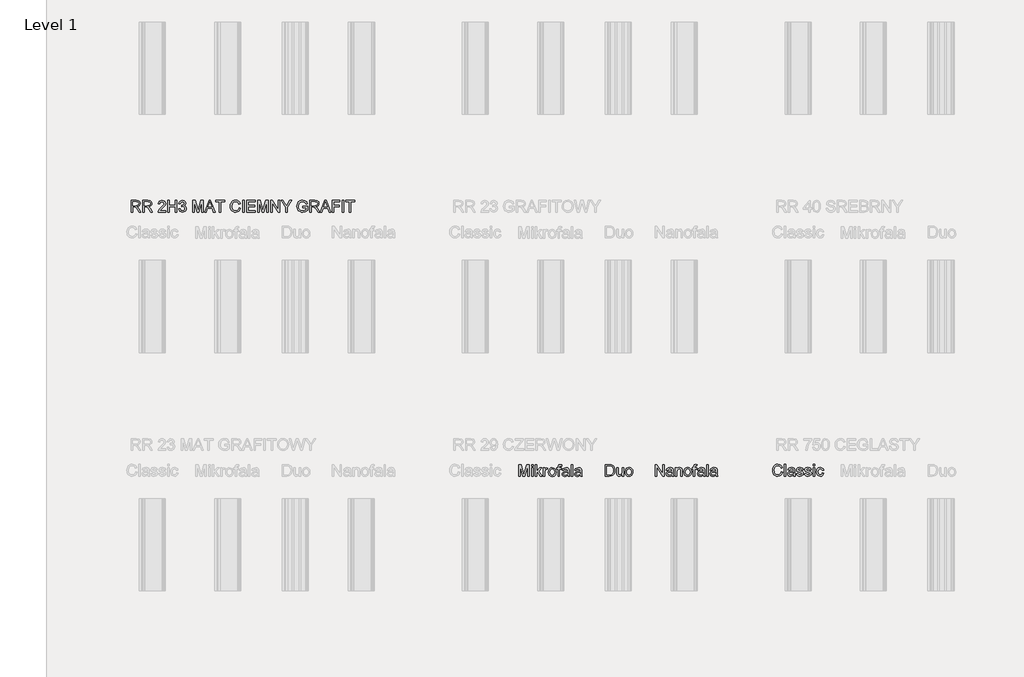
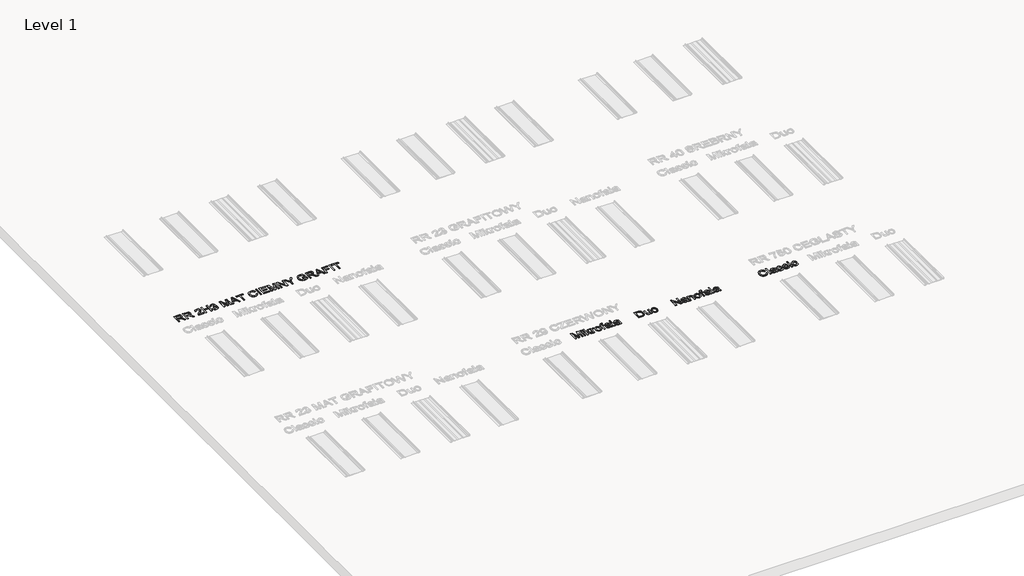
# One storey, part 13 of 24: 5 proxies.
"""IFC4 building model written with IfcOpenShell, lengths in millimetres."""

from ifc_helpers import new_model, si_unit, frame, origin, place, context, project, spatial, polyline, outline, extrude, element, save

model = new_model("IFC4")

# Units and contexts
model_context = context("Model", 3, world=origin())
ifc_project = project(units=[si_unit("LENGTHUNIT", "METRE", prefix="MILLI")], contexts=[model_context])

# Site, building, storey
site = spatial("IfcSite", under=ifc_project)
building = spatial("IfcBuilding", under=site)
storey = spatial("IfcBuildingStorey", under=building, Name="Level 1", Elevation=0.0)

# Proxies
placement = place(None, origin())
element("IfcBuildingElementProxy", 1, Name="150", ObjectType="150", at=placement, inside=storey, context=model_context, shape_type="SweptSolid", body=[
    extrude(outline(polyline([(-3695.6654959, -5075.281387), (-3695.6654959, -4924.5969218), (-3663.3654568, -4924.5969218), (-3632.4633692, -5030.8044538), (-3626.2093753, -5052.9877381), (-3619.4771347, -5028.9650438), (-3589.1636583, -4924.5969218), (-3556.7532546, -4924.5969218), (-3556.7532546, -5075.281387), (-3575.5888127, -5075.281387), (-3575.5888127, -4943.4324799), (-3613.44387, -5075.281387), (-3638.9380923, -5075.281387), (-3676.8299378, -4943.4324799), (-3676.8299378, -5075.281387), (-3695.6654959, -5075.281387)])), frame((0.0, 0.0, 600.0), z_axis=(0.0, 0.0, 1.0), x_axis=(1.0, 0.0, 0.0)), (0.0, 0.0, 1.0), 10.0),
    extrude(outline(polyline([(-3526.1454726, -4943.4324799), (-3526.1454726, -4924.5969218), (-3507.3099144, -4924.5969218), (-3507.3099144, -4943.4324799), (-3526.1454726, -4943.4324799)])), frame((0.0, 0.0, 600.0), z_axis=(0.0, 0.0, 1.0), x_axis=(1.0, 0.0, 0.0)), (0.0, 0.0, 1.0), 10.0),
    extrude(outline(polyline([(-3526.1454726, -5075.281387), (-3526.1454726, -4964.6224829), (-3507.3099144, -4964.6224829), (-3507.3099144, -5075.281387), (-3526.1454726, -5075.281387)])), frame((0.0, 0.0, 600.0), z_axis=(0.0, 0.0, 1.0), x_axis=(1.0, 0.0, 0.0)), (0.0, 0.0, 1.0), 10.0),
    extrude(outline(polyline([(-3479.0565772, -5075.281387), (-3479.0565772, -4924.5969218), (-3460.221019, -4924.5969218), (-3460.221019, -5005.5677489), (-3417.988166, -4964.6224829), (-3391.9421207, -4964.6224829), (-3434.7267968, -5006.0827837), (-3389.587676, -5075.281387), (-3411.5870193, -5075.281387), (-3448.228066, -5019.1793827), (-3460.221019, -5030.841242), (-3460.221019, -5075.281387), (-3479.0565772, -5075.281387)])), frame((0.0, 0.0, 600.0), z_axis=(0.0, 0.0, 1.0), x_axis=(1.0, 0.0, 0.0)), (0.0, 0.0, 1.0), 10.0),
    extrude(outline(polyline([(-3373.1065626, -5075.281387), (-3373.1065626, -4964.6224829), (-3356.6254492, -4964.6224829), (-3356.6254492, -4980.9932316), (-3344.9268017, -4965.9100698), (-3333.1545779, -4962.2680381), (-3314.2454433, -4968.0805736), (-3320.5362255, -4984.9663572), (-3333.7799773, -4981.1035962), (-3344.4301611, -4984.8192044), (-3351.2175839, -4995.1199003), (-3354.2710044, -5017.1192436), (-3354.2710044, -5075.281387), (-3373.1065626, -5075.281387)])), frame((0.0, 0.0, 600.0), z_axis=(0.0, 0.0, 1.0), x_axis=(1.0, 0.0, 0.0)), (0.0, 0.0, 1.0), 10.0),
    extrude(outline(polyline([(-3307.182109, -5019.9519349), (-3303.1078159, -4993.2712932), (-3290.8849367, -4974.5185085), (-3275.7833808, -4965.3306557), (-3257.7019807, -4962.2680381), (-3237.9145279, -4965.9974418), (-3222.1093977, -4977.185653), (-3211.748921, -4994.9497548), (-3208.2954287, -5018.4068306), (-3209.822139, -5037.4355268), (-3214.4022699, -5051.9208803), (-3221.902464, -5062.7688007), (-3232.1893643, -5070.8851972), (-3244.4076451, -5075.9481731), (-3257.7019807, -5077.6358318), (-3277.7285568, -5073.9202236), (-3293.5152929, -5062.7733992), (-3303.765405, -5044.6368168), (-3307.182109, -5019.9519349)]), holes=[polyline([(-3288.3465509, -5019.9151467), (-3286.1668501, -5036.9618787), (-3279.6277476, -5049.1065831), (-3269.7869042, -5056.376851), (-3257.7019807, -5058.8002736), (-3245.6722394, -5056.3630554), (-3235.8497902, -5049.0514008), (-3229.3106877, -5036.745748), (-3227.1309869, -5019.3265355), (-3229.3244833, -5002.7764443), (-3235.9049725, -4990.7972868), (-3245.7412173, -4983.5270189), (-3257.7019807, -4981.1035962), (-3269.7869042, -4983.5178218), (-3279.6277476, -4990.7604986), (-3286.1668501, -5002.8776118), (-3288.3465509, -5019.9151467)])]), frame((0.0, 0.0, 600.0), z_axis=(0.0, 0.0, 1.0), x_axis=(1.0, 0.0, 0.0)), (0.0, 0.0, 1.0), 10.0),
    extrude(outline(polyline([(-3182.3965363, -5075.281387), (-3182.3965363, -4983.458041), (-3198.8776497, -4983.458041), (-3198.8776497, -4964.6224829), (-3182.3965363, -4964.6224829), (-3182.3965363, -4953.4756584), (-3180.4099735, -4937.7670972), (-3170.7714652, -4926.5466964), (-3151.7887543, -4922.242477), (-3134.6086651, -4924.3026162), (-3137.3677801, -4941.960952), (-3148.2202989, -4941.0780352), (-3160.0844933, -4944.2050321), (-3163.5609781, -4955.8668914), (-3163.5609781, -4964.6224829), (-3142.3709752, -4964.6224829), (-3142.3709752, -4983.458041), (-3163.5609781, -4983.458041), (-3163.5609781, -5075.281387), (-3182.3965363, -5075.281387)])), frame((0.0, 0.0, 600.0), z_axis=(0.0, 0.0, 1.0), x_axis=(1.0, 0.0, 0.0)), (0.0, 0.0, 1.0), 10.0),
    extrude(outline(polyline([(-3055.2565187, -5061.1547184), (-3073.5218598, -5073.9202236), (-3093.7001872, -5077.6358318), (-3109.4409381, -5075.4009487), (-3121.0522136, -5068.6962993), (-3128.2121169, -5058.5151651), (-3130.5987514, -5045.8508274), (-3126.9935078, -5030.9516066), (-3117.5205464, -5020.1358759), (-3104.3319769, -5013.9554584), (-3088.0348045, -5011.1227671), (-3055.3668833, -5004.6480439), (-3055.2565187, -5000.4541892), (-3056.5533028, -4992.0480856), (-3060.4436549, -4986.5482498), (-3069.1440641, -4982.4647596), (-3081.2657758, -4981.1035962), (-3100.3220632, -4984.7272339), (-3109.4087484, -4997.5847096), (-3128.2443066, -4995.2302649), (-3120.0957204, -4976.8361651), (-3103.6881834, -4966.0572226), (-3078.8377546, -4962.2680381), (-3056.0106768, -4965.6157643), (-3043.1164129, -4974.0218678), (-3037.3406656, -4986.8057672), (-3036.4209606, -5003.2868806), (-3036.4209606, -5026.7209636), (-3035.4644674, -5059.4440671), (-3031.7120711, -5075.281387), (-3050.5476292, -5075.281387), (-3055.2565187, -5061.1547184)]), holes=[polyline([(-3055.2565187, -5023.4836021), (-3085.6435715, -5029.2593494), (-3101.8487734, -5032.31277), (-3109.1880192, -5037.2791769), (-3111.7631932, -5044.5264522), (-3106.1529928, -5054.7167835), (-3089.6902735, -5058.8002736), (-3070.6339861, -5054.2937192), (-3058.3467275, -5043.386018), (-3055.3668833, -5028.817891), (-3055.2565187, -5023.4836021)])]), frame((0.0, 0.0, 600.0), z_axis=(0.0, 0.0, 1.0), x_axis=(1.0, 0.0, 0.0)), (0.0, 0.0, 1.0), 10.0),
    extrude(outline(polyline([(-3010.5220681, -5075.281387), (-3010.5220681, -4924.5969218), (-2991.68651, -4924.5969218), (-2991.68651, -5075.281387), (-3010.5220681, -5075.281387)])), frame((0.0, 0.0, 600.0), z_axis=(0.0, 0.0, 1.0), x_axis=(1.0, 0.0, 0.0)), (0.0, 0.0, 1.0), 10.0),
    extrude(outline(polyline([(-2892.7998297, -5061.1547184), (-2911.0651707, -5073.9202236), (-2931.2434982, -5077.6358318), (-2946.984249, -5075.4009487), (-2958.5955245, -5068.6962993), (-2965.7554278, -5058.5151651), (-2968.1420623, -5045.8508274), (-2964.5368187, -5030.9516066), (-2955.0638574, -5020.1358759), (-2941.8752878, -5013.9554584), (-2925.5781154, -5011.1227671), (-2892.9101943, -5004.6480439), (-2892.7998297, -5000.4541892), (-2894.0966137, -4992.0480856), (-2897.9869658, -4986.5482498), (-2906.687375, -4982.4647596), (-2918.8090867, -4981.1035962), (-2937.8653741, -4984.7272339), (-2946.9520594, -4997.5847096), (-2965.7876175, -4995.2302649), (-2957.6390313, -4976.8361651), (-2941.2314943, -4966.0572226), (-2916.3810656, -4962.2680381), (-2893.5539878, -4965.6157643), (-2880.6597238, -4974.0218678), (-2874.8839765, -4986.8057672), (-2873.9642715, -5003.2868806), (-2873.9642715, -5026.7209636), (-2873.0077783, -5059.4440671), (-2869.255382, -5075.281387), (-2888.0909401, -5075.281387), (-2892.7998297, -5061.1547184)]), holes=[polyline([(-2892.7998297, -5023.4836021), (-2923.1868825, -5029.2593494), (-2939.3920844, -5032.31277), (-2946.7313302, -5037.2791769), (-2949.3065041, -5044.5264522), (-2943.6963037, -5054.7167835), (-2927.2335844, -5058.8002736), (-2908.1772971, -5054.2937192), (-2895.8900384, -5043.386018), (-2892.9101943, -5028.817891), (-2892.7998297, -5023.4836021)])]), frame((0.0, 0.0, 600.0), z_axis=(0.0, 0.0, 1.0), x_axis=(1.0, 0.0, 0.0)), (0.0, 0.0, 1.0), 10.0),
])
element("IfcBuildingElementProxy", 2, Name="150", ObjectType="150", at=placement, inside=storey, context=model_context, shape_type="SweptSolid", body=[
    extrude(outline(polyline([(-2567.5807075, -5072.1592468), (-2567.5807075, -4921.4747816), (-2515.5989816, -4921.4747816), (-2488.7068077, -4923.6452853), (-2466.5603116, -4934.4242278), (-2456.1400541, -4945.902146), (-2448.7180349, -4960.1759675), (-2444.2758598, -4976.9697805), (-2442.7951347, -4996.0076738), (-2446.8050485, -5026.4131207), (-2457.1057443, -5048.3572817), (-2470.864531, -5062.0240978), (-2488.8723546, -5069.5840728), (-2513.097384, -5072.1592468), (-2567.5807075, -5072.1592468)]), holes=[polyline([(-2548.7451493, -5053.3236886), (-2515.4150406, -5053.3236886), (-2491.1716171, -5050.6013619), (-2477.1921013, -5042.9126282), (-2465.7325771, -5024.2058287), (-2461.6306929, -4995.7133682), (-2463.6402483, -4975.1855529), (-2469.6689145, -4960.0288147), (-2478.5762573, -4949.6177542), (-2489.2218425, -4943.3269721), (-2515.9300754, -4940.3103397), (-2548.7451493, -4940.3103397), (-2548.7451493, -5053.3236886)])]), frame((0.0, 0.0, 600.0), z_axis=(0.0, 0.0, 1.0), x_axis=(1.0, 0.0, 0.0)), (0.0, 0.0, 1.0), 10.0),
    extrude(outline(polyline([(-2348.617344, -5072.1592468), (-2348.617344, -5053.1397476), (-2363.369412, -5069.1702056), (-2382.6096403, -5074.5136916), (-2400.3231584, -5070.7612952), (-2412.5368406, -5061.3435161), (-2418.1470411, -5047.4743649), (-2419.250687, -5029.9631819), (-2419.250687, -4961.5003426), (-2400.4151289, -4961.5003426), (-2400.4151289, -5021.0972259), (-2399.2746947, -5040.300666), (-2391.8250843, -5051.5762492), (-2377.7903862, -5055.6781334), (-2362.0634309, -5051.4842787), (-2351.6707645, -5040.0615427), (-2348.617344, -5019.0738749), (-2348.617344, -4961.5003426), (-2329.7817858, -4961.5003426), (-2329.7817858, -5072.1592468), (-2348.617344, -5072.1592468)])), frame((0.0, 0.0, 600.0), z_axis=(0.0, 0.0, 1.0), x_axis=(1.0, 0.0, 0.0)), (0.0, 0.0, 1.0), 10.0),
    extrude(outline(polyline([(-2308.5917829, -5016.8297947), (-2304.5174898, -4990.149153), (-2292.2946105, -4971.3963683), (-2277.1930546, -4962.2085155), (-2259.1116545, -4959.1458979), (-2239.3242017, -4962.8753016), (-2223.5190715, -4974.0635128), (-2213.1585948, -4991.8276146), (-2209.7051026, -5015.2846903), (-2211.2318129, -5034.3133865), (-2215.8119437, -5048.7987401), (-2223.3121379, -5059.6466604), (-2233.5990382, -5067.7630569), (-2245.8173189, -5072.8260329), (-2259.1116545, -5074.5136916), (-2279.1382307, -5070.7980834), (-2294.9249668, -5059.651259), (-2305.1750789, -5041.5146766), (-2308.5917829, -5016.8297947)]), holes=[polyline([(-2289.7562247, -5016.7930065), (-2287.5765239, -5033.8397385), (-2281.0374215, -5045.9844428), (-2271.1965781, -5053.2547108), (-2259.1116545, -5055.6781334), (-2247.0819133, -5053.2409152), (-2237.259464, -5045.9292605), (-2230.7203616, -5033.6236078), (-2228.5406607, -5016.2043953), (-2230.7341571, -4999.6543041), (-2237.3146463, -4987.6751466), (-2247.1508912, -4980.4048787), (-2259.1116545, -4977.981456), (-2271.1965781, -4980.3956816), (-2281.0374215, -4987.6383584), (-2287.5765239, -4999.7554716), (-2289.7562247, -5016.7930065)])]), frame((0.0, 0.0, 600.0), z_axis=(0.0, 0.0, 1.0), x_axis=(1.0, 0.0, 0.0)), (0.0, 0.0, 1.0), 10.0),
])
element("IfcBuildingElementProxy", 3, Name="150", ObjectType="150", at=placement, inside=storey, context=model_context, shape_type="SweptSolid", body=[
    extrude(outline(polyline([(-279.0085992, -5017.1818641), (-260.1730411, -5022.0379064), (-268.8642532, -5043.986666), (-282.5034782, -5060.0217224), (-300.4193314, -5069.8303761), (-321.9404281, -5073.0999274), (-343.7880201, -5070.6259209), (-361.1382547, -5063.2039017), (-374.4371888, -5051.091387), (-384.1308794, -5034.5458943), (-390.049181, -5015.0941338), (-392.0219482, -4994.2628158), (-389.7916636, -4972.2910636), (-383.1008098, -4953.3175497), (-372.2988747, -4937.9446809), (-357.7353462, -4926.7748638), (-340.4632865, -4919.9736454), (-321.5357579, -4917.7065726), (-300.8837824, -4920.6404315), (-283.8094593, -4929.4420082), (-270.8462175, -4943.5686769), (-262.5274859, -4962.4778114), (-281.363044, -4966.9659718), (-287.8929494, -4953.2301778), (-296.8140878, -4943.8078002), (-308.2368238, -4938.3585481), (-322.2715219, -4936.5421308), (-338.4491326, -4938.5562847), (-351.7388697, -4944.5987464), (-361.8234349, -4954.0349196), (-368.38553, -4966.2302078), (-373.18639, -4994.2260276), (-371.7654458, -5011.626846), (-367.5026132, -5026.6732196), (-360.2369438, -5038.7903328), (-349.8074892, -5047.40337), (-337.3040999, -5052.5491194), (-323.8166263, -5054.2643692), (-308.0942695, -5051.9283185), (-294.9930719, -5044.9201665), (-285.1016448, -5033.3134896), (-279.0085992, -5017.1818641)])), frame((0.0, 0.0, 600.0), z_axis=(0.0, 0.0, 1.0), x_axis=(1.0, 0.0, 0.0)), (0.0, 0.0, 1.0), 10.0),
    extrude(outline(polyline([(-236.6285934, -5070.7454826), (-236.6285934, -4920.0610174), (-217.7930352, -4920.0610174), (-217.7930352, -5070.7454826), (-236.6285934, -5070.7454826)])), frame((0.0, 0.0, 600.0), z_axis=(0.0, 0.0, 1.0), x_axis=(1.0, 0.0, 0.0)), (0.0, 0.0, 1.0), 10.0),
    extrude(outline(polyline([(-118.9063549, -5056.618814), (-137.171696, -5069.3843192), (-157.3500234, -5073.0999274), (-173.0907743, -5070.8650442), (-184.7020498, -5064.1603949), (-191.8619531, -5053.9792607), (-194.2485875, -5041.314923), (-190.643344, -5026.4157022), (-181.1703826, -5015.5999715), (-167.9818131, -5009.419554), (-151.6846407, -5006.5868626), (-119.0167195, -5000.1121395), (-118.9063549, -4995.9182848), (-120.203139, -4987.5121812), (-124.0934911, -4982.0123454), (-132.7939003, -4977.9288552), (-144.915612, -4976.5676918), (-163.9718993, -4980.1913295), (-173.0585846, -4993.0488052), (-191.8941428, -4990.6943604), (-183.7455566, -4972.3002607), (-167.3380196, -4961.5213182), (-142.4875908, -4957.7321337), (-119.660513, -4961.0798598), (-106.7662491, -4969.4859634), (-100.9905018, -4982.2698628), (-100.0707968, -4998.7509761), (-100.0707968, -5022.1850592), (-99.1143036, -5054.9081627), (-95.3619072, -5070.7454826), (-114.1974654, -5070.7454826), (-118.9063549, -5056.618814)]), holes=[polyline([(-118.9063549, -5018.9476977), (-149.2934077, -5024.723445), (-165.4986096, -5027.7768656), (-172.8378554, -5032.7432725), (-175.4130294, -5039.9905478), (-169.802829, -5050.1808791), (-153.3401097, -5054.2643692), (-134.2838223, -5049.7578148), (-121.9965637, -5038.8501136), (-119.0167195, -5024.2819866), (-118.9063549, -5018.9476977)])]), frame((0.0, 0.0, 600.0), z_axis=(0.0, 0.0, 1.0), x_axis=(1.0, 0.0, 0.0)), (0.0, 0.0, 1.0), 10.0),
    extrude(outline(polyline([(-81.2352386, -5037.7832558), (-62.3996805, -5035.4288111), (-59.4290334, -5043.4854268), (-53.6808772, -5049.4083269), (-33.7048849, -5054.2643692), (-14.5014447, -5049.8129971), (-8.2474508, -5039.3651484), (-9.8201463, -5034.5642884), (-14.5382329, -5030.9038625), (-33.9256141, -5025.5327854), (-62.2893159, -5016.3173414), (-74.668545, -5005.5567931), (-78.8807939, -4990.3632666), (-75.4962795, -4976.3285685), (-66.2624414, -4965.6048084), (-54.2878825, -4960.0313961), (-38.0826806, -4957.7321337), (-15.1636323, -4961.4293477), (-0.5955053, -4971.435738), (5.8792178, -4988.3399157), (-12.9563403, -4990.6943604), (-20.0380687, -4980.3016941), (-36.6111526, -4976.5676918), (-54.6373704, -4980.1361472), (-60.0452357, -4988.4502803), (-57.8011555, -4993.931722), (-50.7746094, -4998.0887885), (-34.5510134, -5002.0987023), (-6.9046815, -5010.9646584), (5.9344001, -5021.0078368), (10.5881074, -5037.3785856), (5.1250597, -5055.4048034), (-10.6386838, -5068.4830083), (-33.9624023, -5073.0999274), (-52.9543103, -5070.8742413), (-66.8142644, -5064.1971831), (-76.0664966, -5053.1423291), (-81.2352386, -5037.7832558)])), frame((0.0, 0.0, 600.0), z_axis=(0.0, 0.0, 1.0), x_axis=(1.0, 0.0, 0.0)), (0.0, 0.0, 1.0), 10.0),
    extrude(outline(polyline([(24.714776, -5037.7832558), (43.5503341, -5035.4288111), (46.5209812, -5043.4854268), (52.2691374, -5049.4083269), (72.2451298, -5054.2643692), (91.4485699, -5049.8129971), (97.7025638, -5039.3651484), (96.1298683, -5034.5642884), (91.4117817, -5030.9038625), (72.0244006, -5025.5327854), (43.6606987, -5016.3173414), (31.2814696, -5005.5567931), (27.0692207, -4990.3632666), (30.4537351, -4976.3285685), (39.6875732, -4965.6048084), (51.6621321, -4960.0313961), (67.867334, -4957.7321337), (90.7863823, -4961.4293477), (105.3545093, -4971.435738), (111.8292324, -4988.3399157), (92.9936743, -4990.6943604), (85.9119459, -4980.3016941), (69.338862, -4976.5676918), (51.3126442, -4980.1361472), (45.9047789, -4988.4502803), (48.1488591, -4993.931722), (55.1754052, -4998.0887885), (71.3990012, -5002.0987023), (99.0453331, -5010.9646584), (111.8844147, -5021.0078368), (116.538122, -5037.3785856), (111.0750743, -5055.4048034), (95.3113309, -5068.4830083), (71.9876124, -5073.0999274), (52.9957044, -5070.8742413), (39.1357502, -5064.1971831), (29.883518, -5053.1423291), (24.714776, -5037.7832558)])), frame((0.0, 0.0, 600.0), z_axis=(0.0, 0.0, 1.0), x_axis=(1.0, 0.0, 0.0)), (0.0, 0.0, 1.0), 10.0),
    extrude(outline(polyline([(137.7281249, -4938.8965755), (137.7281249, -4920.0610174), (156.5636831, -4920.0610174), (156.5636831, -4938.8965755), (137.7281249, -4938.8965755)])), frame((0.0, 0.0, 600.0), z_axis=(0.0, 0.0, 1.0), x_axis=(1.0, 0.0, 0.0)), (0.0, 0.0, 1.0), 10.0),
    extrude(outline(polyline([(137.7281249, -5070.7454826), (137.7281249, -4960.0865784), (156.5636831, -4960.0865784), (156.5636831, -5070.7454826), (137.7281249, -5070.7454826)])), frame((0.0, 0.0, 600.0), z_axis=(0.0, 0.0, 1.0), x_axis=(1.0, 0.0, 0.0)), (0.0, 0.0, 1.0), 10.0),
    extrude(outline(polyline([(255.4503634, -5030.7199215), (274.2859215, -5033.0743663), (269.034406, -5049.8267926), (259.1659715, -5062.4865318), (245.60952, -5070.4465785), (229.2939535, -5073.0999274), (209.2581803, -5069.3981148), (193.5910059, -5058.2926771), (183.4788495, -5040.2710578), (180.1081307, -5015.8207007), (181.547469, -4999.0590773), (185.865484, -4984.532337), (193.1311534, -4972.8014999), (203.4134551, -4964.427586), (215.7145094, -4959.4059968), (229.0364361, -4957.7321337), (244.9519309, -4960.0313961), (257.6760494, -4966.9291836), (266.8041214, -4978.0576139), (271.9314767, -4993.0488052), (253.0959186, -4995.40325), (244.3587212, -4981.2949755), (229.1835889, -4976.5676918), (217.0112934, -4978.8945454), (207.3497925, -4985.8751063), (201.0452148, -4997.8864535), (198.9436889, -5015.3056659), (200.9992295, -5032.9594032), (207.1658515, -5045.012137), (216.6526084, -5051.9513112), (228.6685541, -5054.2643692), (238.4220255, -5052.8204324), (246.4188604, -5048.4886219), (252.2359944, -5041.1585731), (255.4503634, -5030.7199215)])), frame((0.0, 0.0, 600.0), z_axis=(0.0, 0.0, 1.0), x_axis=(1.0, 0.0, 0.0)), (0.0, 0.0, 1.0), 10.0),
])
element("IfcBuildingElementProxy", 4, Name="150", ObjectType="150", at=placement, inside=storey, context=model_context, shape_type="SweptSolid", body=[
    extrude(outline(polyline([(-1919.1806572, -5072.1592468), (-1919.1806572, -4921.4747816), (-1899.0207239, -4921.4747816), (-1820.2939769, -5040.852489), (-1820.2939769, -4921.4747816), (-1801.4584188, -4921.4747816), (-1801.4584188, -5072.1592468), (-1821.6183521, -5072.1592468), (-1900.3450991, -4952.7447512), (-1900.3450991, -5072.1592468), (-1919.1806572, -5072.1592468)])), frame((0.0, 0.0, 600.0), z_axis=(0.0, 0.0, 1.0), x_axis=(1.0, 0.0, 0.0)), (0.0, 0.0, 1.0), 10.0),
    extrude(outline(polyline([(-1700.2172937, -5058.0325782), (-1718.4826347, -5070.7980834), (-1738.6609622, -5074.5136916), (-1754.401713, -5072.2788084), (-1766.0129885, -5065.5741591), (-1773.1728919, -5055.3930249), (-1775.5595263, -5042.7286872), (-1771.9542827, -5027.8294664), (-1762.4813214, -5017.0137357), (-1749.2927518, -5010.8333182), (-1732.9955795, -5008.0006268), (-1700.3276583, -5001.5259037), (-1700.2172937, -4997.332049), (-1701.5140777, -4988.9259454), (-1705.4044298, -4983.4261096), (-1714.104839, -4979.3426194), (-1726.2265507, -4977.981456), (-1745.2828381, -4981.6050937), (-1754.3695234, -4994.4625694), (-1773.2050815, -4992.1081246), (-1765.0564953, -4973.7140249), (-1748.6489583, -4962.9350824), (-1723.7985296, -4959.1458979), (-1700.9714518, -4962.493624), (-1688.0771878, -4970.8997276), (-1682.3014405, -4983.683627), (-1681.3817355, -5000.1647403), (-1681.3817355, -5023.5988234), (-1680.4252423, -5056.3219269), (-1676.672846, -5072.1592468), (-1695.5084041, -5072.1592468), (-1700.2172937, -5058.0325782)]), holes=[polyline([(-1700.2172937, -5020.3614619), (-1730.6043465, -5026.1372092), (-1746.8095484, -5029.1906298), (-1754.1487942, -5034.1570367), (-1756.7239681, -5041.404312), (-1751.1137677, -5051.5946433), (-1734.6510484, -5055.6781334), (-1715.5947611, -5051.171579), (-1703.3075024, -5040.2638778), (-1700.3276583, -5025.6957508), (-1700.2172937, -5020.3614619)])]), frame((0.0, 0.0, 600.0), z_axis=(0.0, 0.0, 1.0), x_axis=(1.0, 0.0, 0.0)), (0.0, 0.0, 1.0), 10.0),
    extrude(outline(polyline([(-1655.4828431, -5072.1592468), (-1655.4828431, -4961.5003426), (-1636.6472849, -4961.5003426), (-1636.6472849, -4976.9513864), (-1622.2447048, -4963.59727), (-1602.5814122, -4959.1458979), (-1584.7943177, -4962.7327473), (-1572.6542119, -4972.1505264), (-1567.0072232, -4986.0012835), (-1566.0139418, -5004.2114423), (-1566.0139418, -5072.1592468), (-1584.8495, -5072.1592468), (-1584.8495, -5006.749828), (-1587.0200038, -4990.0847737), (-1594.6903434, -4981.2739999), (-1607.6213955, -4977.981456), (-1618.6532568, -4979.8300631), (-1628.0572403, -4985.3758841), (-1634.4997738, -4996.0904472), (-1636.6472849, -5013.4452804), (-1636.6472849, -5072.1592468), (-1655.4828431, -5072.1592468)])), frame((0.0, 0.0, 600.0), z_axis=(0.0, 0.0, 1.0), x_axis=(1.0, 0.0, 0.0)), (0.0, 0.0, 1.0), 10.0),
    extrude(outline(polyline([(-1544.8239389, -5016.8297947), (-1540.7496458, -4990.149153), (-1528.5267665, -4971.3963683), (-1513.4252106, -4962.2085155), (-1495.3438106, -4959.1458979), (-1475.5563578, -4962.8753016), (-1459.7512275, -4974.0635128), (-1449.3907508, -4991.8276146), (-1445.9372586, -5015.2846903), (-1447.4639689, -5034.3133865), (-1452.0440997, -5048.7987401), (-1459.5442939, -5059.6466604), (-1469.8311942, -5067.7630569), (-1482.049475, -5072.8260329), (-1495.3438106, -5074.5136916), (-1515.3703867, -5070.7980834), (-1531.1571228, -5059.651259), (-1541.4072349, -5041.5146766), (-1544.8239389, -5016.8297947)]), holes=[polyline([(-1525.9883808, -5016.7930065), (-1523.8086799, -5033.8397385), (-1517.2695775, -5045.9844428), (-1507.4287341, -5053.2547108), (-1495.3438106, -5055.6781334), (-1483.3140693, -5053.2409152), (-1473.4916201, -5045.9292605), (-1466.9525176, -5033.6236078), (-1464.7728168, -5016.2043953), (-1466.9663132, -4999.6543041), (-1473.5468024, -4987.6751466), (-1483.3830472, -4980.4048787), (-1495.3438106, -4977.981456), (-1507.4287341, -4980.3956816), (-1517.2695775, -4987.6383584), (-1523.8086799, -4999.7554716), (-1525.9883808, -5016.7930065)])]), frame((0.0, 0.0, 600.0), z_axis=(0.0, 0.0, 1.0), x_axis=(1.0, 0.0, 0.0)), (0.0, 0.0, 1.0), 10.0),
    extrude(outline(polyline([(-1420.0383662, -5072.1592468), (-1420.0383662, -4980.3359008), (-1436.5194795, -4980.3359008), (-1436.5194795, -4961.5003426), (-1420.0383662, -4961.5003426), (-1420.0383662, -4950.3535182), (-1418.0518034, -4934.644957), (-1408.4132951, -4923.4245561), (-1389.4305842, -4919.1203368), (-1372.250495, -4921.180476), (-1375.0096099, -4938.8388117), (-1385.8621288, -4937.955895), (-1397.7263231, -4941.0828919), (-1401.202808, -4952.7447512), (-1401.202808, -4961.5003426), (-1380.0128051, -4961.5003426), (-1380.0128051, -4980.3359008), (-1401.202808, -4980.3359008), (-1401.202808, -5072.1592468), (-1420.0383662, -5072.1592468)])), frame((0.0, 0.0, 600.0), z_axis=(0.0, 0.0, 1.0), x_axis=(1.0, 0.0, 0.0)), (0.0, 0.0, 1.0), 10.0),
    extrude(outline(polyline([(-1292.8983486, -5058.0325782), (-1311.1636897, -5070.7980834), (-1331.3420171, -5074.5136916), (-1347.082768, -5072.2788084), (-1358.6940435, -5065.5741591), (-1365.8539468, -5055.3930249), (-1368.2405812, -5042.7286872), (-1364.6353377, -5027.8294664), (-1355.1623763, -5017.0137357), (-1341.9738068, -5010.8333182), (-1325.6766344, -5008.0006268), (-1293.0087132, -5001.5259037), (-1292.8983486, -4997.332049), (-1294.1951327, -4988.9259454), (-1298.0854848, -4983.4261096), (-1306.7858939, -4979.3426194), (-1318.9076057, -4977.981456), (-1337.963893, -4981.6050937), (-1347.0505783, -4994.4625694), (-1365.8861365, -4992.1081246), (-1357.7375503, -4973.7140249), (-1341.3300133, -4962.9350824), (-1316.4795845, -4959.1458979), (-1293.6525067, -4962.493624), (-1280.7582428, -4970.8997276), (-1274.9824955, -4983.683627), (-1274.0627905, -5000.1647403), (-1274.0627905, -5023.5988234), (-1273.1062973, -5056.3219269), (-1269.3539009, -5072.1592468), (-1288.1894591, -5072.1592468), (-1292.8983486, -5058.0325782)]), holes=[polyline([(-1292.8983486, -5020.3614619), (-1323.2854014, -5026.1372092), (-1339.4906033, -5029.1906298), (-1346.8298491, -5034.1570367), (-1349.4050231, -5041.404312), (-1343.7948227, -5051.5946433), (-1327.3321034, -5055.6781334), (-1308.275816, -5051.171579), (-1295.9885574, -5040.2638778), (-1293.0087132, -5025.6957508), (-1292.8983486, -5020.3614619)])]), frame((0.0, 0.0, 600.0), z_axis=(0.0, 0.0, 1.0), x_axis=(1.0, 0.0, 0.0)), (0.0, 0.0, 1.0), 10.0),
    extrude(outline(polyline([(-1248.163898, -5072.1592468), (-1248.163898, -4921.4747816), (-1229.3283399, -4921.4747816), (-1229.3283399, -5072.1592468), (-1248.163898, -5072.1592468)])), frame((0.0, 0.0, 600.0), z_axis=(0.0, 0.0, 1.0), x_axis=(1.0, 0.0, 0.0)), (0.0, 0.0, 1.0), 10.0),
    extrude(outline(polyline([(-1130.4416596, -5058.0325782), (-1148.7070006, -5070.7980834), (-1168.885328, -5074.5136916), (-1184.6260789, -5072.2788084), (-1196.2373544, -5065.5741591), (-1203.3972577, -5055.3930249), (-1205.7838922, -5042.7286872), (-1202.1786486, -5027.8294664), (-1192.7056872, -5017.0137357), (-1179.5171177, -5010.8333182), (-1163.2199453, -5008.0006268), (-1130.5520242, -5001.5259037), (-1130.4416596, -4997.332049), (-1131.7384436, -4988.9259454), (-1135.6287957, -4983.4261096), (-1144.3292049, -4979.3426194), (-1156.4509166, -4977.981456), (-1175.507204, -4981.6050937), (-1184.5938892, -4994.4625694), (-1203.4294474, -4992.1081246), (-1195.2808612, -4973.7140249), (-1178.8733242, -4962.9350824), (-1154.0228954, -4959.1458979), (-1131.1958176, -4962.493624), (-1118.3015537, -4970.8997276), (-1112.5258064, -4983.683627), (-1111.6061014, -5000.1647403), (-1111.6061014, -5023.5988234), (-1110.6496082, -5056.3219269), (-1106.8972119, -5072.1592468), (-1125.73277, -5072.1592468), (-1130.4416596, -5058.0325782)]), holes=[polyline([(-1130.4416596, -5020.3614619), (-1160.8287124, -5026.1372092), (-1177.0339142, -5029.1906298), (-1184.37316, -5034.1570367), (-1186.948334, -5041.404312), (-1181.3381336, -5051.5946433), (-1164.8754143, -5055.6781334), (-1145.819127, -5051.171579), (-1133.5318683, -5040.2638778), (-1130.5520242, -5025.6957508), (-1130.4416596, -5020.3614619)])]), frame((0.0, 0.0, 600.0), z_axis=(0.0, 0.0, 1.0), x_axis=(1.0, 0.0, 0.0)), (0.0, 0.0, 1.0), 10.0),
])
element("IfcBuildingElementProxy", 5, Name="150 Blue", ObjectType="150 Blue", at=placement, inside=storey, context=model_context, shape_type="SweptSolid", body=[
    extrude(outline(polyline([(-8736.4118342, -1635.6514112), (-8736.4118342, -1484.966946), (-8671.4806621, -1484.966946), (-8641.3327325, -1489.032042), (-8632.0529092, -1494.6606365), (-8624.8516192, -1503.416228), (-8620.2301016, -1514.2733454), (-8618.6895957, -1526.2065176), (-8621.2417771, -1541.0505561), (-8628.8983211, -1553.3562089), (-8641.8891541, -1562.3785148), (-8660.4442022, -1567.3725129), (-8649.7388361, -1575.4291286), (-8634.4717333, -1594.8165097), (-8609.3453931, -1635.6514112), (-8631.2343718, -1635.6514112), (-8650.8424821, -1604.4182298), (-8665.0059389, -1583.7432617), (-8674.9571469, -1573.9759947), (-8683.9150735, -1570.3891452), (-8694.8411687, -1569.7269577), (-8717.576276, -1569.7269577), (-8717.576276, -1635.6514112), (-8736.4118342, -1635.6514112)]), holes=[polyline([(-8717.576276, -1550.8913995), (-8675.4169994, -1550.8913995), (-8653.9142968, -1548.224255), (-8641.7006145, -1539.6893927), (-8637.5251539, -1526.9054934), (-8639.5163152, -1517.7176406), (-8645.4897991, -1510.3140154), (-8655.7675023, -1505.4303819), (-8670.6713217, -1503.8025041), (-8717.576276, -1503.8025041), (-8717.576276, -1550.8913995)])]), frame((0.0, 0.0, 600.0), z_axis=(0.0, 0.0, 1.0), x_axis=(1.0, 0.0, 0.0)), (0.0, 0.0, 1.0), 10.0),
    extrude(outline(polyline([(-8585.727369, -1635.6514112), (-8585.727369, -1484.966946), (-8520.7961968, -1484.966946), (-8490.6482673, -1489.032042), (-8481.368444, -1494.6606365), (-8474.1671539, -1503.416228), (-8469.5456364, -1514.2733454), (-8468.0051305, -1526.2065176), (-8470.5573119, -1541.0505561), (-8478.2138559, -1553.3562089), (-8491.2046888, -1562.3785148), (-8509.759737, -1567.3725129), (-8499.0543709, -1575.4291286), (-8483.7872681, -1594.8165097), (-8458.6609278, -1635.6514112), (-8480.5499066, -1635.6514112), (-8500.1580169, -1604.4182298), (-8514.3214737, -1583.7432617), (-8524.2726817, -1573.9759947), (-8533.2306083, -1570.3891452), (-8544.1567035, -1569.7269577), (-8566.8918108, -1569.7269577), (-8566.8918108, -1635.6514112), (-8585.727369, -1635.6514112)]), holes=[polyline([(-8566.8918108, -1550.8913995), (-8524.7325342, -1550.8913995), (-8503.2298316, -1548.224255), (-8491.0161493, -1539.6893927), (-8486.8406887, -1526.9054934), (-8488.83185, -1517.7176406), (-8494.8053339, -1510.3140154), (-8505.0830371, -1505.4303819), (-8519.9868564, -1503.8025041), (-8566.8918108, -1503.8025041), (-8566.8918108, -1550.8913995)])]), frame((0.0, 0.0, 600.0), z_axis=(0.0, 0.0, 1.0), x_axis=(1.0, 0.0, 0.0)), (0.0, 0.0, 1.0), 10.0),
    extrude(outline(polyline([(-8286.7128833, -1616.815853), (-8286.7128833, -1635.6514112), (-8385.5995636, -1635.6514112), (-8383.5762126, -1622.6651768), (-8372.1166885, -1602.6707903), (-8348.5170585, -1580.8369939), (-8316.0146842, -1549.4566597), (-8309.9308357, -1538.6409291), (-8307.9028862, -1528.119504), (-8309.8204711, -1518.6879293), (-8315.5732258, -1510.8474443), (-8324.4161893, -1505.5637392), (-8335.6044005, -1503.8025041), (-8347.3536317, -1505.5223524), (-8356.4817037, -1510.6818974), (-8362.3724141, -1518.8764689), (-8364.4095607, -1529.7013966), (-8383.2451188, -1527.3469518), (-8378.6787836, -1509.127596), (-8368.8057505, -1495.8194648), (-8354.1410545, -1487.6800757), (-8335.1997303, -1484.966946), (-8316.1204503, -1487.9835783), (-8301.4833454, -1497.0334754), (-8292.1713324, -1510.5531387), (-8289.0673281, -1526.9790698), (-8292.4150542, -1544.8397407), (-8303.5434846, -1563.3074168), (-8330.5276289, -1589.1143388), (-8352.1958784, -1607.2325271), (-8360.6939525, -1616.815853), (-8286.7128833, -1616.815853)])), frame((0.0, 0.0, 600.0), z_axis=(0.0, 0.0, 1.0), x_axis=(1.0, 0.0, 0.0)), (0.0, 0.0, 1.0), 10.0),
    extrude(outline(polyline([(-8260.8139908, -1635.6514112), (-8260.8139908, -1484.966946), (-8241.9784327, -1484.966946), (-8241.9784327, -1546.18251), (-8161.9273105, -1546.18251), (-8161.9273105, -1484.966946), (-8143.0917524, -1484.966946), (-8143.0917524, -1635.6514112), (-8161.9273105, -1635.6514112), (-8161.9273105, -1565.0180681), (-8241.9784327, -1565.0180681), (-8241.9784327, -1635.6514112), (-8260.8139908, -1635.6514112)])), frame((0.0, 0.0, 600.0), z_axis=(0.0, 0.0, 1.0), x_axis=(1.0, 0.0, 0.0)), (0.0, 0.0, 1.0), 10.0),
    extrude(outline(polyline([(-8117.1928599, -1595.6258501), (-8098.3573018, -1593.2714053), (-8094.1404544, -1605.1080085), (-8087.9646354, -1613.1002449), (-8079.5263421, -1617.6527846), (-8068.522072, -1619.1702978), (-8055.6094139, -1617.0825675), (-8045.6398119, -1610.8193765), (-8039.2662563, -1601.4751738), (-8037.1417378, -1590.1444084), (-8039.2478622, -1579.3884586), (-8045.5662355, -1570.6650567), (-8055.1311673, -1564.8847109), (-8066.9769676, -1562.9579289), (-8080.1839312, -1565.0180681), (-8078.0870038, -1546.18251), (-8075.0703715, -1546.4032392), (-8053.6964276, -1540.9953738), (-8046.5779109, -1534.1343746), (-8044.2050721, -1524.3671076), (-8045.9249204, -1516.232317), (-8051.0844654, -1509.6334337), (-8058.9571401, -1505.2602365), (-8068.8163776, -1503.8025041), (-8078.6940091, -1505.2740321), (-8086.7690189, -1509.688616), (-8092.6643279, -1517.0462559), (-8096.002857, -1527.3469518), (-8114.8384152, -1524.992507), (-8109.2925941, -1508.0791323), (-8099.4241596, -1495.4515828), (-8085.9228903, -1487.5881052), (-8069.4785651, -1484.966946), (-8046.7618519, -1490.135688), (-8030.8693498, -1504.2623566), (-8025.3695139, -1523.2634617), (-8030.5934383, -1540.6274918), (-8046.0444821, -1553.0986915), (-8034.2538641, -1557.8627633), (-8025.5166667, -1565.9745613), (-8020.1088014, -1576.9926271), (-8018.3061796, -1590.4755022), (-8021.9114232, -1608.8328137), (-8032.7271538, -1624.1734929), (-8049.0519174, -1634.5477652), (-8069.1842596, -1638.005856), (-8087.3944183, -1635.0536029), (-8102.2200627, -1626.1968439), (-8112.5299556, -1612.6495894), (-8117.1928599, -1595.6258501)])), frame((0.0, 0.0, 600.0), z_axis=(0.0, 0.0, 1.0), x_axis=(1.0, 0.0, 0.0)), (0.0, 0.0, 1.0), 10.0),
    extrude(outline(polyline([(-7935.9006127, -1635.6514112), (-7935.9006127, -1484.966946), (-7903.6005735, -1484.966946), (-7872.6984859, -1591.174478), (-7866.444492, -1613.3577623), (-7859.7122515, -1589.335068), (-7829.3987751, -1484.966946), (-7796.9883713, -1484.966946), (-7796.9883713, -1635.6514112), (-7815.8239295, -1635.6514112), (-7815.8239295, -1503.8025041), (-7853.6789868, -1635.6514112), (-7879.173209, -1635.6514112), (-7917.0650545, -1503.8025041), (-7917.0650545, -1635.6514112), (-7935.9006127, -1635.6514112)])), frame((0.0, 0.0, 600.0), z_axis=(0.0, 0.0, 1.0), x_axis=(1.0, 0.0, 0.0)), (0.0, 0.0, 1.0), 10.0),
    extrude(outline(polyline([(-7781.5373275, -1635.6514112), (-7721.3886213, -1484.966946), (-7705.3489663, -1484.966946), (-7645.2370483, -1635.6514112), (-7665.1394642, -1635.6514112), (-7682.3563416, -1588.5625158), (-7744.4548224, -1588.5625158), (-7761.6716998, -1635.6514112), (-7781.5373275, -1635.6514112)]), holes=[polyline([(-7737.5386409, -1569.7269577), (-7689.2357349, -1569.7269577), (-7702.8473688, -1532.6812407), (-7713.405582, -1503.8025041), (-7722.7865729, -1529.4438792), (-7737.5386409, -1569.7269577)])]), frame((0.0, 0.0, 600.0), z_axis=(0.0, 0.0, 1.0), x_axis=(1.0, 0.0, 0.0)), (0.0, 0.0, 1.0), 10.0),
    extrude(outline(polyline([(-7587.4427869, -1635.6514112), (-7587.4427869, -1503.8025041), (-7636.886127, -1503.8025041), (-7636.886127, -1484.966946), (-7519.1638886, -1484.966946), (-7519.1638886, -1503.8025041), (-7568.6072287, -1503.8025041), (-7568.6072287, -1635.6514112), (-7587.4427869, -1635.6514112)])), frame((0.0, 0.0, 600.0), z_axis=(0.0, 0.0, 1.0), x_axis=(1.0, 0.0, 0.0)), (0.0, 0.0, 1.0), 10.0),
    extrude(outline(polyline([(-7333.1627518, -1582.0877927), (-7314.3271936, -1586.943835), (-7323.0184058, -1608.8925946), (-7336.6576308, -1624.927651), (-7354.5734839, -1634.7363047), (-7376.0945806, -1638.005856), (-7397.9421726, -1635.5318495), (-7415.2924072, -1628.1098303), (-7428.5913413, -1615.9973156), (-7438.2850319, -1599.4518229), (-7444.2033335, -1580.0000624), (-7446.1761007, -1559.1687444), (-7443.9458161, -1537.1969922), (-7437.2549623, -1518.2234783), (-7426.4530273, -1502.8506095), (-7411.8894988, -1491.6807924), (-7394.6174391, -1484.879574), (-7375.6899104, -1482.6125012), (-7355.0379349, -1485.5463601), (-7337.9636118, -1494.3479368), (-7325.00037, -1508.4746055), (-7316.6816384, -1527.38374), (-7335.5171966, -1531.8719003), (-7342.047102, -1518.1361064), (-7350.9682404, -1508.7137288), (-7362.3909763, -1503.2644767), (-7376.4256744, -1501.4480593), (-7392.6032852, -1503.4622133), (-7405.8930222, -1509.504675), (-7415.9775874, -1518.9408482), (-7422.5396825, -1531.1361364), (-7427.3405426, -1559.1319562), (-7425.9195984, -1576.5327746), (-7421.6567657, -1591.5791482), (-7414.3910963, -1603.6962614), (-7403.9616418, -1612.3092986), (-7391.4582525, -1617.455048), (-7377.9707788, -1619.1702978), (-7362.248422, -1616.8342471), (-7349.1472245, -1609.8260951), (-7339.2557973, -1598.2194182), (-7333.1627518, -1582.0877927)])), frame((0.0, 0.0, 600.0), z_axis=(0.0, 0.0, 1.0), x_axis=(1.0, 0.0, 0.0)), (0.0, 0.0, 1.0), 10.0),
    extrude(outline(polyline([(-7286.0738564, -1635.6514112), (-7286.0738564, -1484.966946), (-7267.2382983, -1484.966946), (-7267.2382983, -1635.6514112), (-7286.0738564, -1635.6514112)])), frame((0.0, 0.0, 600.0), z_axis=(0.0, 0.0, 1.0), x_axis=(1.0, 0.0, 0.0)), (0.0, 0.0, 1.0), 10.0),
    extrude(outline(polyline([(-7229.567182, -1635.6514112), (-7229.567182, -1484.966946), (-7121.2627226, -1484.966946), (-7121.2627226, -1503.8025041), (-7210.7316238, -1503.8025041), (-7210.7316238, -1548.5369547), (-7125.9716121, -1548.5369547), (-7125.9716121, -1567.3725129), (-7210.7316238, -1567.3725129), (-7210.7316238, -1616.815853), (-7118.9082778, -1616.815853), (-7118.9082778, -1635.6514112), (-7229.567182, -1635.6514112)])), frame((0.0, 0.0, 600.0), z_axis=(0.0, 0.0, 1.0), x_axis=(1.0, 0.0, 0.0)), (0.0, 0.0, 1.0), 10.0),
    extrude(outline(polyline([(-7090.6549406, -1635.6514112), (-7090.6549406, -1484.966946), (-7058.3549014, -1484.966946), (-7027.4528138, -1591.174478), (-7021.1988199, -1613.3577623), (-7014.4665794, -1589.335068), (-6984.153103, -1484.966946), (-6951.7426992, -1484.966946), (-6951.7426992, -1635.6514112), (-6970.5782574, -1635.6514112), (-6970.5782574, -1503.8025041), (-7008.4333147, -1635.6514112), (-7033.9275369, -1635.6514112), (-7071.8193824, -1503.8025041), (-7071.8193824, -1635.6514112), (-7090.6549406, -1635.6514112)])), frame((0.0, 0.0, 600.0), z_axis=(0.0, 0.0, 1.0), x_axis=(1.0, 0.0, 0.0)), (0.0, 0.0, 1.0), 10.0),
    extrude(outline(polyline([(-6918.7804724, -1635.6514112), (-6918.7804724, -1484.966946), (-6898.6205391, -1484.966946), (-6819.8937921, -1604.3446534), (-6819.8937921, -1484.966946), (-6801.058234, -1484.966946), (-6801.058234, -1635.6514112), (-6821.2181673, -1635.6514112), (-6899.9449143, -1516.2369156), (-6899.9449143, -1635.6514112), (-6918.7804724, -1635.6514112)])), frame((0.0, 0.0, 600.0), z_axis=(0.0, 0.0, 1.0), x_axis=(1.0, 0.0, 0.0)), (0.0, 0.0, 1.0), 10.0),
    extrude(outline(polyline([(-6725.7160014, -1635.6514112), (-6725.7160014, -1571.823885), (-6784.5771206, -1484.966946), (-6762.3938363, -1484.966946), (-6730.9767139, -1531.3568656), (-6714.9002707, -1555.048466), (-6698.7502511, -1529.6646084), (-6670.2393965, -1484.966946), (-6648.019324, -1484.966946), (-6706.8804432, -1571.823885), (-6706.8804432, -1635.6514112), (-6725.7160014, -1635.6514112)])), frame((0.0, 0.0, 600.0), z_axis=(0.0, 0.0, 1.0), x_axis=(1.0, 0.0, 0.0)), (0.0, 0.0, 1.0), 10.0),
    extrude(outline(polyline([(-6502.0437483, -1576.790292), (-6502.0437483, -1557.9547338), (-6440.8281843, -1557.9547338), (-6440.8281843, -1614.2774673), (-6471.0496902, -1632.0461676), (-6503.0002415, -1638.005856), (-6524.1304636, -1635.6376156), (-6543.2281377, -1628.5328946), (-6559.0930487, -1616.9400132), (-6570.5249817, -1601.1072918), (-6577.4365647, -1582.1153838), (-6579.7404257, -1561.0449426), (-6577.4457617, -1539.82275), (-6570.5617699, -1520.0812824), (-6559.3735587, -1503.5219941), (-6544.1662367, -1491.8463393), (-6525.6433783, -1484.9209607), (-6504.5085577, -1482.6125012), (-6475.0412099, -1487.9651842), (-6463.2919786, -1494.3663309), (-6454.3846358, -1502.864405), (-6442.9986881, -1527.7884102), (-6460.3627182, -1532.6812407), (-6468.9527628, -1515.2620283), (-6483.6312544, -1505.2188498), (-6504.8028633, -1501.4480593), (-6528.917528, -1505.5131554), (-6545.325065, -1516.1817333), (-6555.0187556, -1530.694678), (-6560.9048675, -1560.2723904), (-6559.1344354, -1578.2848126), (-6553.8231391, -1593.1058584), (-6545.131927, -1604.6297619), (-6533.2217474, -1612.750757), (-6519.2836183, -1617.5654126), (-6504.5085577, -1619.1702978), (-6478.7384239, -1614.3326496), (-6459.6637425, -1604.0135596), (-6459.6637425, -1576.790292), (-6502.0437483, -1576.790292)])), frame((0.0, 0.0, 600.0), z_axis=(0.0, 0.0, 1.0), x_axis=(1.0, 0.0, 0.0)), (0.0, 0.0, 1.0), 10.0),
    extrude(outline(polyline([(-6410.2204023, -1635.6514112), (-6410.2204023, -1484.966946), (-6345.2892302, -1484.966946), (-6315.1413006, -1489.032042), (-6305.8614773, -1494.6606365), (-6298.6601873, -1503.416228), (-6294.0386697, -1514.2733454), (-6292.4981638, -1526.2065176), (-6295.0503452, -1541.0505561), (-6302.7068892, -1553.3562089), (-6315.6977222, -1562.3785148), (-6334.2527703, -1567.3725129), (-6323.5474042, -1575.4291286), (-6308.2803014, -1594.8165097), (-6283.1539612, -1635.6514112), (-6305.0429399, -1635.6514112), (-6324.6510502, -1604.4182298), (-6338.814507, -1583.7432617), (-6348.765715, -1573.9759947), (-6357.7236416, -1570.3891452), (-6368.6497368, -1569.7269577), (-6391.3848441, -1569.7269577), (-6391.3848441, -1635.6514112), (-6410.2204023, -1635.6514112)]), holes=[polyline([(-6391.3848441, -1550.8913995), (-6349.2255675, -1550.8913995), (-6327.7228649, -1548.224255), (-6315.5091826, -1539.6893927), (-6311.333722, -1526.9054934), (-6313.3248833, -1517.7176406), (-6319.2983672, -1510.3140154), (-6329.5760704, -1505.4303819), (-6344.4798898, -1503.8025041), (-6391.3848441, -1503.8025041), (-6391.3848441, -1550.8913995)])]), frame((0.0, 0.0, 600.0), z_axis=(0.0, 0.0, 1.0), x_axis=(1.0, 0.0, 0.0)), (0.0, 0.0, 1.0), 10.0),
    extrude(outline(polyline([(-6277.04712, -1635.6514112), (-6216.8984138, -1484.966946), (-6200.8587588, -1484.966946), (-6140.7468408, -1635.6514112), (-6160.6492568, -1635.6514112), (-6177.8661341, -1588.5625158), (-6239.9646149, -1588.5625158), (-6257.1814923, -1635.6514112), (-6277.04712, -1635.6514112)]), holes=[polyline([(-6233.0484334, -1569.7269577), (-6184.7455275, -1569.7269577), (-6198.3571613, -1532.6812407), (-6208.9153745, -1503.8025041), (-6218.2963654, -1529.4438792), (-6233.0484334, -1569.7269577)])]), frame((0.0, 0.0, 600.0), z_axis=(0.0, 0.0, 1.0), x_axis=(1.0, 0.0, 0.0)), (0.0, 0.0, 1.0), 10.0),
    extrude(outline(polyline([(-6120.6236957, -1635.6514112), (-6120.6236957, -1484.966946), (-6019.3825706, -1484.966946), (-6019.3825706, -1503.8025041), (-6101.7881375, -1503.8025041), (-6101.7881375, -1548.5369547), (-6031.1547945, -1548.5369547), (-6031.1547945, -1567.3725129), (-6101.7881375, -1567.3725129), (-6101.7881375, -1635.6514112), (-6120.6236957, -1635.6514112)])), frame((0.0, 0.0, 600.0), z_axis=(0.0, 0.0, 1.0), x_axis=(1.0, 0.0, 0.0)), (0.0, 0.0, 1.0), 10.0),
    extrude(outline(polyline([(-5991.1292334, -1635.6514112), (-5991.1292334, -1484.966946), (-5972.2936752, -1484.966946), (-5972.2936752, -1635.6514112), (-5991.1292334, -1635.6514112)])), frame((0.0, 0.0, 600.0), z_axis=(0.0, 0.0, 1.0), x_axis=(1.0, 0.0, 0.0)), (0.0, 0.0, 1.0), 10.0),
    extrude(outline(polyline([(-5896.9514426, -1635.6514112), (-5896.9514426, -1503.8025041), (-5946.3947828, -1503.8025041), (-5946.3947828, -1484.966946), (-5828.6725443, -1484.966946), (-5828.6725443, -1503.8025041), (-5878.1158845, -1503.8025041), (-5878.1158845, -1635.6514112), (-5896.9514426, -1635.6514112)])), frame((0.0, 0.0, 600.0), z_axis=(0.0, 0.0, 1.0), x_axis=(1.0, 0.0, 0.0)), (0.0, 0.0, 1.0), 10.0),
])

save(model, "model.ifc")
